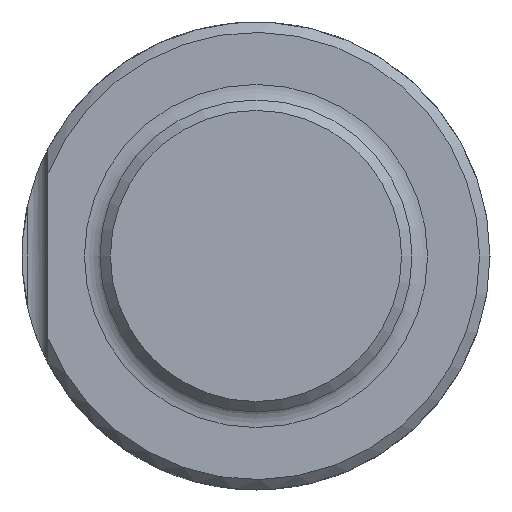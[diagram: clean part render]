
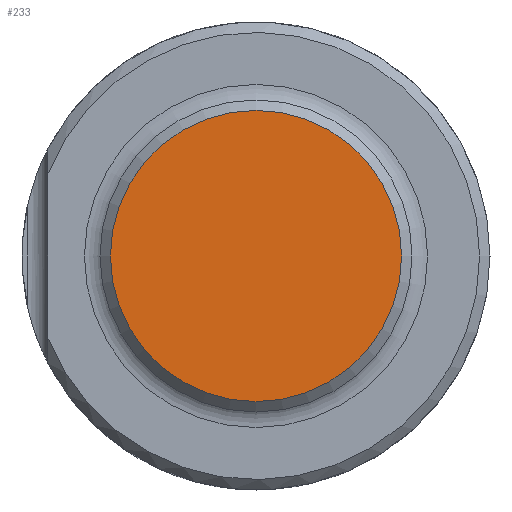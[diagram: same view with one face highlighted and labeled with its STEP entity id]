
A CAD part, left-side view. The second image highlights one B-rep face of the part: STEP entity #233.
In plain terms, the highlighted planar face has unit normal (-1, 0, 0).
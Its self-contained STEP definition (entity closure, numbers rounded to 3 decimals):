
#37=FACE_OUTER_BOUND('',#52,.T.);
#52=EDGE_LOOP('',(#187));
#89=CIRCLE('',#278,2.8);
#112=VERTEX_POINT('',#439);
#139=EDGE_CURVE('',#112,#112,#89,.T.);
#187=ORIENTED_EDGE('',*,*,#139,.F.);
#224=PLANE('',#277);
#233=ADVANCED_FACE('',(#37),#224,.T.);
#277=AXIS2_PLACEMENT_3D('',#438,#332,#333);
#278=AXIS2_PLACEMENT_3D('',#440,#334,#335);
#332=DIRECTION('center_axis',(-1.,0.,0.));
#333=DIRECTION('ref_axis',(0.,0.,1.));
#334=DIRECTION('center_axis',(1.,0.,0.));
#335=DIRECTION('ref_axis',(0.,0.,-1.));
#438=CARTESIAN_POINT('Origin',(-30.,2.8,0.));
#439=CARTESIAN_POINT('',(-30.,-2.8,0.));
#440=CARTESIAN_POINT('Origin',(-30.,0.,0.));
